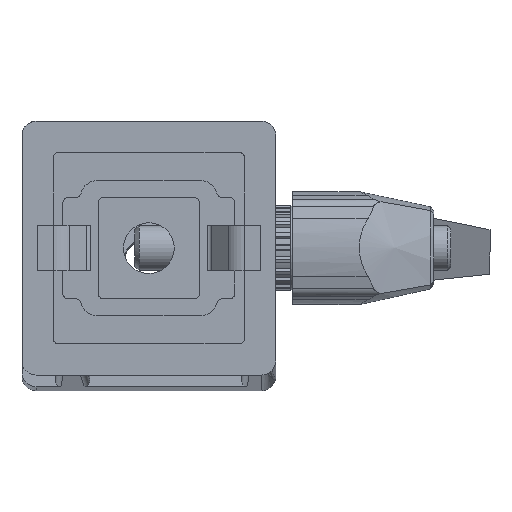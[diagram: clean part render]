
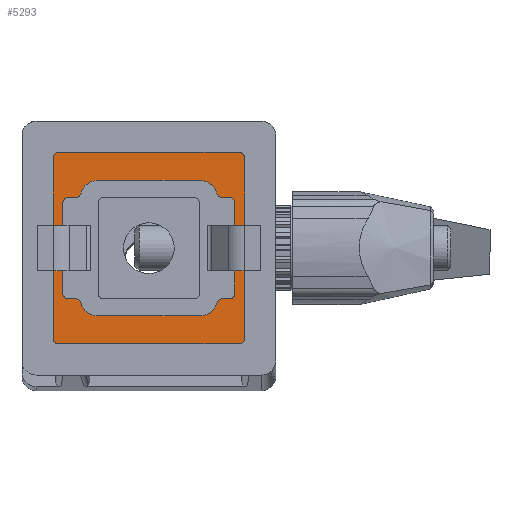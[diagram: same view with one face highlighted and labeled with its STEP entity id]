
A CAD part, front view. The second image highlights one B-rep face of the part: STEP entity #5293.
In plain terms, the highlighted planar face has unit normal (0, -1, 0).
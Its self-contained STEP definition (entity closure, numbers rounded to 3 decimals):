
#80 = LINE ( 'NONE', #1911, #8671 ) ;
#117 = DIRECTION ( 'NONE',  ( -1., 0., 0. ) ) ;
#126 = EDGE_CURVE ( 'NONE', #1128, #5294, #10632, .T. ) ;
#134 = CARTESIAN_POINT ( 'NONE',  ( 17., 4., 6.5 ) ) ;
#156 = DIRECTION ( 'NONE',  ( 1., 0., 0. ) ) ;
#300 = DIRECTION ( 'NONE',  ( 0., -1., 0. ) ) ;
#358 = LINE ( 'NONE', #3396, #631 ) ;
#446 = DIRECTION ( 'NONE',  ( 0., 1., 0. ) ) ;
#597 = DIRECTION ( 'NONE',  ( 0., 0., -1. ) ) ;
#631 = VECTOR ( 'NONE', #1766, 1000. ) ;
#693 = DIRECTION ( 'NONE',  ( 1., 0., 0. ) ) ;
#760 = LINE ( 'NONE', #5268, #9632 ) ;
#866 = EDGE_CURVE ( 'NONE', #10522, #10270, #6945, .T. ) ;
#873 = AXIS2_PLACEMENT_3D ( 'NONE', #6285, #300, #5490 ) ;
#895 = CARTESIAN_POINT ( 'NONE',  ( 17., 4., 39.5 ) ) ;
#1108 = VECTOR ( 'NONE', #156, 1000. ) ;
#1128 = VERTEX_POINT ( 'NONE', #1323 ) ;
#1154 = CARTESIAN_POINT ( 'NONE',  ( -9., 4., 14.5 ) ) ;
#1184 = CIRCLE ( 'NONE', #1389, 1. ) ;
#1221 = CARTESIAN_POINT ( 'NONE',  ( 16., 4., 5.5 ) ) ;
#1298 = ORIENTED_EDGE ( 'NONE', *, *, #8834, .T. ) ;
#1323 = CARTESIAN_POINT ( 'NONE',  ( -17., 4., 38.5 ) ) ;
#1389 = AXIS2_PLACEMENT_3D ( 'NONE', #2692, #8697, #3855 ) ;
#1683 = CIRCLE ( 'NONE', #873, 1. ) ;
#1699 = ORIENTED_EDGE ( 'NONE', *, *, #6956, .T. ) ;
#1752 = VERTEX_POINT ( 'NONE', #1846 ) ;
#1766 = DIRECTION ( 'NONE',  ( 0., 0., 1. ) ) ;
#1846 = CARTESIAN_POINT ( 'NONE',  ( 17., 4., 38.5 ) ) ;
#1911 = CARTESIAN_POINT ( 'NONE',  ( 9., 4., 31.5 ) ) ;
#2227 = DIRECTION ( 'NONE',  ( 0., 0., -1. ) ) ;
#2271 = CARTESIAN_POINT ( 'NONE',  ( -17., 4., 6.5 ) ) ;
#2512 = VERTEX_POINT ( 'NONE', #7972 ) ;
#2568 = CARTESIAN_POINT ( 'NONE',  ( 8., 4., 14.5 ) ) ;
#2692 = CARTESIAN_POINT ( 'NONE',  ( 16., 4., 38.5 ) ) ;
#2894 = EDGE_CURVE ( 'NONE', #5493, #6710, #6352, .T. ) ;
#3142 = CARTESIAN_POINT ( 'NONE',  ( -8., 4., 13.5 ) ) ;
#3227 = VECTOR ( 'NONE', #8824, 1000. ) ;
#3277 = EDGE_CURVE ( 'NONE', #7345, #6250, #10483, .T. ) ;
#3364 = ORIENTED_EDGE ( 'NONE', *, *, #5023, .T. ) ;
#3396 = CARTESIAN_POINT ( 'NONE',  ( 17., 4., 5.5 ) ) ;
#3496 = DIRECTION ( 'NONE',  ( 0., 0., -1. ) ) ;
#3499 = CARTESIAN_POINT ( 'NONE',  ( 8., 4., 30.5 ) ) ;
#3612 = FACE_BOUND ( 'NONE', #6811, .T. ) ;
#3646 = CARTESIAN_POINT ( 'NONE',  ( -8., 4., 14.5 ) ) ;
#3686 = VERTEX_POINT ( 'NONE', #8086 ) ;
#3765 = AXIS2_PLACEMENT_3D ( 'NONE', #2568, #8520, #3496 ) ;
#3834 = EDGE_CURVE ( 'NONE', #6400, #9660, #5077, .T. ) ;
#3855 = DIRECTION ( 'NONE',  ( 0., 0., -1. ) ) ;
#3913 = CARTESIAN_POINT ( 'NONE',  ( -16., 4., 6.5 ) ) ;
#4163 = ORIENTED_EDGE ( 'NONE', *, *, #866, .T. ) ;
#4483 = DIRECTION ( 'NONE',  ( 0., 0., -1. ) ) ;
#4525 = EDGE_CURVE ( 'NONE', #5902, #3686, #10195, .T. ) ;
#4627 = DIRECTION ( 'NONE',  ( 0., 0., -1. ) ) ;
#4692 = ORIENTED_EDGE ( 'NONE', *, *, #5176, .T. ) ;
#4704 = VERTEX_POINT ( 'NONE', #8695 ) ;
#5023 = EDGE_CURVE ( 'NONE', #1752, #5902, #1184, .T. ) ;
#5077 = CIRCLE ( 'NONE', #5855, 1. ) ;
#5112 = AXIS2_PLACEMENT_3D ( 'NONE', #3913, #6591, #2227 ) ;
#5176 = EDGE_CURVE ( 'NONE', #5294, #2512, #8582, .T. ) ;
#5268 = CARTESIAN_POINT ( 'NONE',  ( -9., 4., 13.5 ) ) ;
#5291 = DIRECTION ( 'NONE',  ( 0., 1., 0. ) ) ;
#5293 = ADVANCED_FACE ( 'NONE', ( #3612, #8302 ), #8244, .T. ) ;
#5294 = VERTEX_POINT ( 'NONE', #2271 ) ;
#5490 = DIRECTION ( 'NONE',  ( 0., 0., -1. ) ) ;
#5493 = VERTEX_POINT ( 'NONE', #9941 ) ;
#5508 = VECTOR ( 'NONE', #6055, 1000. ) ;
#5594 = CARTESIAN_POINT ( 'NONE',  ( -17., 4., 39.5 ) ) ;
#5596 = CARTESIAN_POINT ( 'NONE',  ( -8., 4., 30.5 ) ) ;
#5682 = AXIS2_PLACEMENT_3D ( 'NONE', #5594, #9873, #10786 ) ;
#5730 = ORIENTED_EDGE ( 'NONE', *, *, #7156, .F. ) ;
#5777 = EDGE_LOOP ( 'NONE', ( #1298, #7633, #1699, #3364, #7210, #7071, #7711, #4692 ) ) ;
#5855 = AXIS2_PLACEMENT_3D ( 'NONE', #6204, #6129, #9501 ) ;
#5902 = VERTEX_POINT ( 'NONE', #11094 ) ;
#6055 = DIRECTION ( 'NONE',  ( -1., 0., 0. ) ) ;
#6129 = DIRECTION ( 'NONE',  ( 0., -1., 0. ) ) ;
#6191 = AXIS2_PLACEMENT_3D ( 'NONE', #3646, #8885, #4627 ) ;
#6204 = CARTESIAN_POINT ( 'NONE',  ( 16., 4., 6.5 ) ) ;
#6216 = CARTESIAN_POINT ( 'NONE',  ( 9., 4., 13.5 ) ) ;
#6250 = VERTEX_POINT ( 'NONE', #7658 ) ;
#6285 = CARTESIAN_POINT ( 'NONE',  ( -16., 4., 38.5 ) ) ;
#6352 = CIRCLE ( 'NONE', #6411, 1. ) ;
#6400 = VERTEX_POINT ( 'NONE', #1221 ) ;
#6411 = AXIS2_PLACEMENT_3D ( 'NONE', #5596, #446, #6468 ) ;
#6468 = DIRECTION ( 'NONE',  ( 0., 0., -1. ) ) ;
#6591 = DIRECTION ( 'NONE',  ( 0., -1., 0. ) ) ;
#6665 = ORIENTED_EDGE ( 'NONE', *, *, #2894, .T. ) ;
#6710 = VERTEX_POINT ( 'NONE', #8587 ) ;
#6793 = ORIENTED_EDGE ( 'NONE', *, *, #7771, .F. ) ;
#6811 = EDGE_LOOP ( 'NONE', ( #8934, #7757, #5730, #7788, #6793, #4163, #10811, #6665 ) ) ;
#6866 = LINE ( 'NONE', #6216, #3227 ) ;
#6914 = DIRECTION ( 'NONE',  ( 0., 0., -1. ) ) ;
#6945 = CIRCLE ( 'NONE', #6191, 1. ) ;
#6956 = EDGE_CURVE ( 'NONE', #9660, #1752, #358, .T. ) ;
#7071 = ORIENTED_EDGE ( 'NONE', *, *, #7958, .T. ) ;
#7127 = EDGE_CURVE ( 'NONE', #5493, #10270, #760, .T. ) ;
#7156 = EDGE_CURVE ( 'NONE', #4704, #6250, #6866, .T. ) ;
#7210 = ORIENTED_EDGE ( 'NONE', *, *, #4525, .T. ) ;
#7345 = VERTEX_POINT ( 'NONE', #9991 ) ;
#7633 = ORIENTED_EDGE ( 'NONE', *, *, #3834, .T. ) ;
#7658 = CARTESIAN_POINT ( 'NONE',  ( 9., 4., 30.5 ) ) ;
#7711 = ORIENTED_EDGE ( 'NONE', *, *, #126, .T. ) ;
#7757 = ORIENTED_EDGE ( 'NONE', *, *, #3277, .T. ) ;
#7771 = EDGE_CURVE ( 'NONE', #10522, #10329, #8248, .T. ) ;
#7788 = ORIENTED_EDGE ( 'NONE', *, *, #10081, .T. ) ;
#7958 = EDGE_CURVE ( 'NONE', #3686, #1128, #1683, .T. ) ;
#7960 = CARTESIAN_POINT ( 'NONE',  ( 17., 4., 5.5 ) ) ;
#7972 = CARTESIAN_POINT ( 'NONE',  ( -16., 4., 5.5 ) ) ;
#8086 = CARTESIAN_POINT ( 'NONE',  ( -16., 4., 39.5 ) ) ;
#8087 = CARTESIAN_POINT ( 'NONE',  ( 8., 4., 13.5 ) ) ;
#8244 = PLANE ( 'NONE',  #5682 ) ;
#8248 = LINE ( 'NONE', #11067, #8785 ) ;
#8302 = FACE_OUTER_BOUND ( 'NONE', #5777, .T. ) ;
#8369 = VECTOR ( 'NONE', #597, 1000. ) ;
#8520 = DIRECTION ( 'NONE',  ( 0., 1., 0. ) ) ;
#8582 = CIRCLE ( 'NONE', #5112, 1. ) ;
#8587 = CARTESIAN_POINT ( 'NONE',  ( -8., 4., 31.5 ) ) ;
#8671 = VECTOR ( 'NONE', #117, 1000. ) ;
#8695 = CARTESIAN_POINT ( 'NONE',  ( 9., 4., 14.5 ) ) ;
#8697 = DIRECTION ( 'NONE',  ( 0., -1., 0. ) ) ;
#8785 = VECTOR ( 'NONE', #693, 1000. ) ;
#8824 = DIRECTION ( 'NONE',  ( 0., 0., 1. ) ) ;
#8834 = EDGE_CURVE ( 'NONE', #2512, #6400, #10242, .T. ) ;
#8885 = DIRECTION ( 'NONE',  ( 0., 1., 0. ) ) ;
#8934 = ORIENTED_EDGE ( 'NONE', *, *, #10203, .F. ) ;
#9501 = DIRECTION ( 'NONE',  ( 0., 0., -1. ) ) ;
#9632 = VECTOR ( 'NONE', #4483, 1000. ) ;
#9660 = VERTEX_POINT ( 'NONE', #134 ) ;
#9873 = DIRECTION ( 'NONE',  ( 0., -1., 0. ) ) ;
#9941 = CARTESIAN_POINT ( 'NONE',  ( -9., 4., 30.5 ) ) ;
#9991 = CARTESIAN_POINT ( 'NONE',  ( 8., 4., 31.5 ) ) ;
#10081 = EDGE_CURVE ( 'NONE', #4704, #10329, #10215, .T. ) ;
#10195 = LINE ( 'NONE', #895, #5508 ) ;
#10203 = EDGE_CURVE ( 'NONE', #7345, #6710, #80, .T. ) ;
#10215 = CIRCLE ( 'NONE', #3765, 1. ) ;
#10242 = LINE ( 'NONE', #7960, #1108 ) ;
#10270 = VERTEX_POINT ( 'NONE', #1154 ) ;
#10329 = VERTEX_POINT ( 'NONE', #8087 ) ;
#10483 = CIRCLE ( 'NONE', #10710, 1. ) ;
#10522 = VERTEX_POINT ( 'NONE', #3142 ) ;
#10632 = LINE ( 'NONE', #10873, #8369 ) ;
#10710 = AXIS2_PLACEMENT_3D ( 'NONE', #3499, #5291, #6914 ) ;
#10786 = DIRECTION ( 'NONE',  ( 0., 0., -1. ) ) ;
#10811 = ORIENTED_EDGE ( 'NONE', *, *, #7127, .F. ) ;
#10873 = CARTESIAN_POINT ( 'NONE',  ( -17., 4., 5.5 ) ) ;
#11067 = CARTESIAN_POINT ( 'NONE',  ( 9., 4., 13.5 ) ) ;
#11094 = CARTESIAN_POINT ( 'NONE',  ( 16., 4., 39.5 ) ) ;
